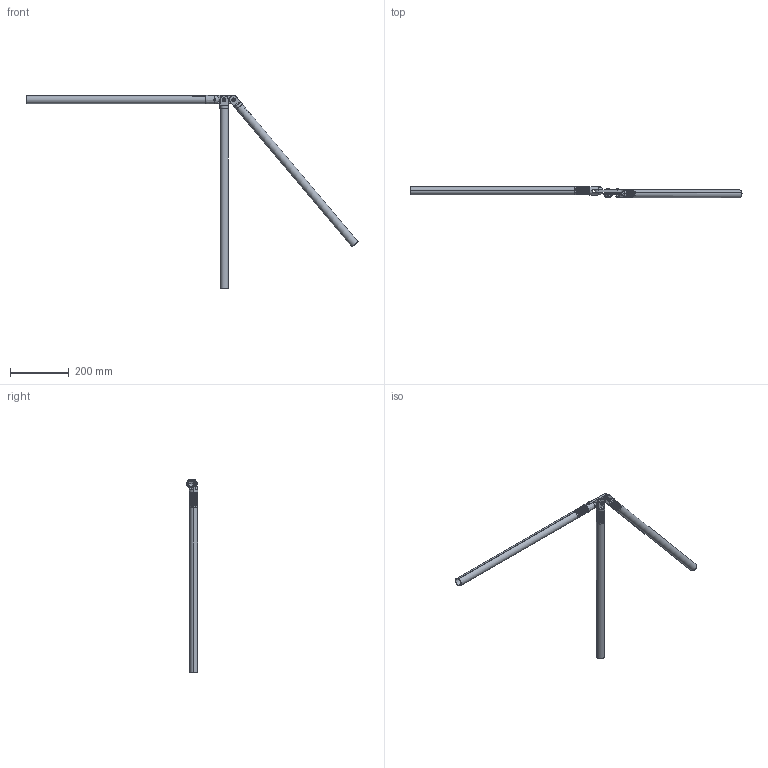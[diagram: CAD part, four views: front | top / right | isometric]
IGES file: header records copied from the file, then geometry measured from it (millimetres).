
Start section: SolidWorks IGES file using analytic representation for surfaces
Global section: file name: \\SERVER3\Design\_NEWDE~1\_DESIG~1\AAI\MODULA~1\SOLIDW~1\DEMONS~1\25DBF2~1.ASS\MODULA~1\83079~1.USE\USEOFL~2\Triple Link Connector to Female Clevis Connector and Two Male Clevis Connectors.IGS; native system: SolidWorks 2013; preprocessor: SolidWorks 2013; author: tbraun; date: 130819.121826; units: inch
Bounding box: 1126.18 x 39.8 x 654.77 mm (x, y, z)
Surface area: 354720.5 mm2 (no closed solid volume)
Topology: 0 solids, 0 shells, 1401 faces, 17677 edges, 17669 vertices
Faces by surface type: revolution 982, bspline 419
